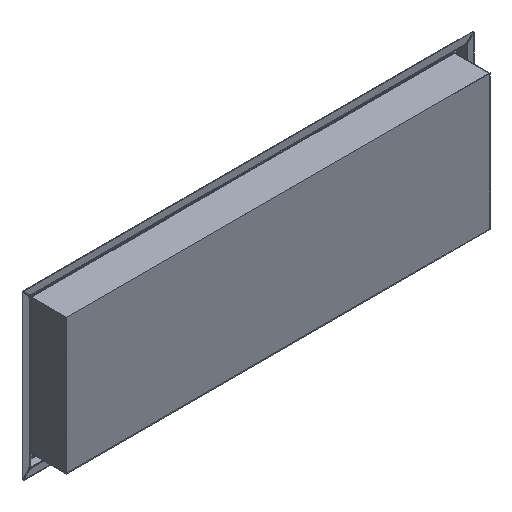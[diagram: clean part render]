
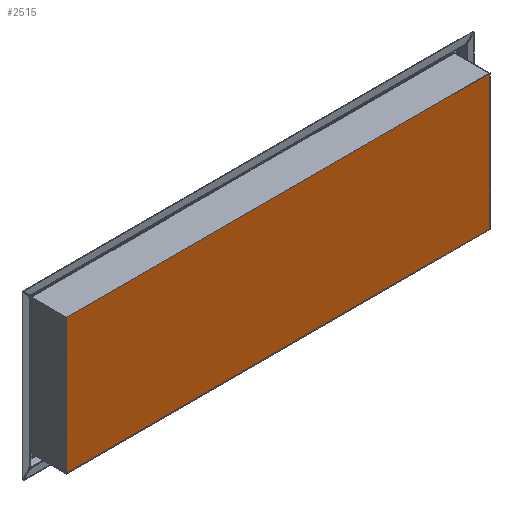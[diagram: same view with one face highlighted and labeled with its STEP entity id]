
A CAD part, isometric view. The second image highlights one B-rep face of the part: STEP entity #2515.
In plain terms, the highlighted planar face has unit normal (0, -1, 0).
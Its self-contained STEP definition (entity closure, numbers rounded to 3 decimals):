
#261=FACE_OUTER_BOUND('',#424,.T.);
#424=EDGE_LOOP('',(#1881,#1882,#1883,#1884,#1885));
#539=LINE('',#3694,#791);
#542=LINE('',#3766,#794);
#543=LINE('',#3769,#795);
#604=LINE('',#4246,#856);
#625=LINE('',#4561,#877);
#791=VECTOR('',#2911,283.);
#794=VECTOR('',#2916,10.);
#795=VECTOR('',#2919,283.);
#856=VECTOR('',#3058,10.);
#877=VECTOR('',#3123,10.);
#1039=VERTEX_POINT('',#3685);
#1043=VERTEX_POINT('',#3692);
#1047=VERTEX_POINT('',#3763);
#1048=VERTEX_POINT('',#3768);
#1108=VERTEX_POINT('',#4243);
#1264=EDGE_CURVE('',#1043,#1039,#539,.T.);
#1269=EDGE_CURVE('',#1039,#1047,#542,.T.);
#1270=EDGE_CURVE('',#1047,#1048,#543,.T.);
#1352=EDGE_CURVE('',#1108,#1043,#604,.T.);
#1384=EDGE_CURVE('',#1108,#1048,#625,.T.);
#1881=ORIENTED_EDGE('',*,*,#1352,.F.);
#1882=ORIENTED_EDGE('',*,*,#1384,.T.);
#1883=ORIENTED_EDGE('',*,*,#1270,.F.);
#1884=ORIENTED_EDGE('',*,*,#1269,.F.);
#1885=ORIENTED_EDGE('',*,*,#1264,.F.);
#2406=PLANE('',#2706);
#2515=ADVANCED_FACE('',(#261),#2406,.F.);
#2706=AXIS2_PLACEMENT_3D('',#4565,#3129,#3130);
#2911=DIRECTION('',(0.,0.,1.));
#2916=DIRECTION('',(1.,0.,0.));
#2919=DIRECTION('',(0.,0.,-1.));
#3058=DIRECTION('',(0.,0.,1.));
#3123=DIRECTION('',(1.,0.,0.));
#3129=DIRECTION('center_axis',(0.,1.,0.));
#3130=DIRECTION('ref_axis',(0.,0.,1.));
#3685=CARTESIAN_POINT('',(2669.443,-9.6,1062.487));
#3692=CARTESIAN_POINT('',(2669.443,-9.6,780.487));
#3694=CARTESIAN_POINT('',(2669.443,-9.6,779.487));
#3763=CARTESIAN_POINT('',(3552.443,-9.6,1062.487));
#3766=CARTESIAN_POINT('',(3181.193,-9.6,1062.487));
#3768=CARTESIAN_POINT('',(3552.443,-9.6,779.487));
#3769=CARTESIAN_POINT('',(3552.443,-9.6,1062.487));
#4243=CARTESIAN_POINT('',(2669.443,-9.6,779.487));
#4246=CARTESIAN_POINT('',(2669.443,-9.6,779.487));
#4561=CARTESIAN_POINT('',(3551.443,-9.6,779.487));
#4565=CARTESIAN_POINT('Origin',(2810.943,-9.6,1067.107));
